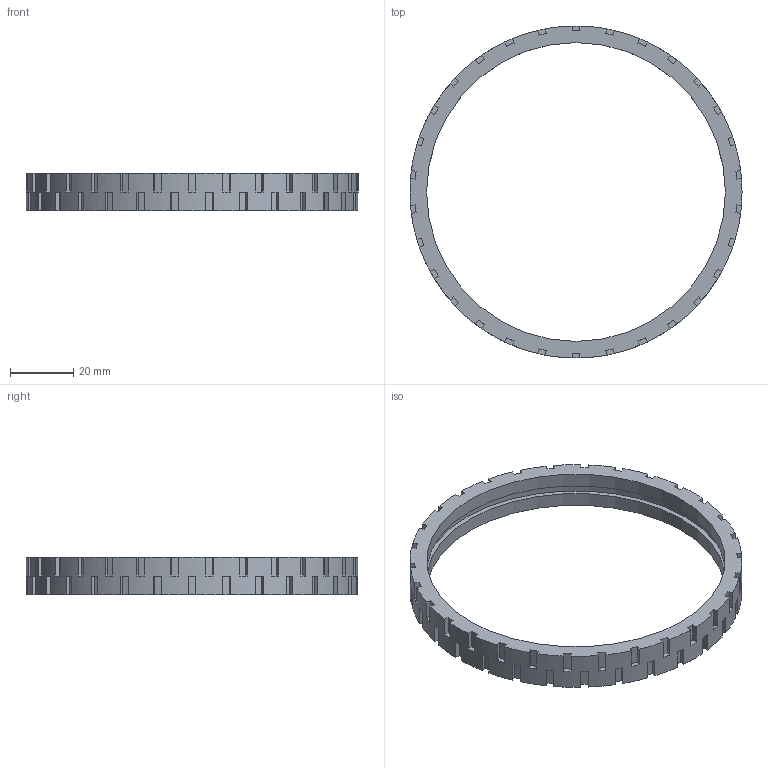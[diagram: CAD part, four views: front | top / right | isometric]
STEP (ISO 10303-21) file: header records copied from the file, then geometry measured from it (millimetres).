
FILE_DESCRIPTION(('Open CASCADE Model'),'2;1');
FILE_NAME('Open CASCADE Shape Model','2026-10-04T21:56:21',('Author'),( 'Open CASCADE'),'Open CASCADE STEP processor 7.9','Open CASCADE 7.9' ,'Unknown');
FILE_SCHEMA(('AUTOMOTIVE_DESIGN { 1 0 10303 214 1 1 1 1 }'));
Length unit declared in the file: millimetre
Products named in the file (1): Open CASCADE STEP translator 7.9 8
Bounding box: 105 x 105 x 12 mm (x, y, z)
Volume: 17039.9 mm3; surface area: 12813.7 mm2
Topology: 1 solids, 1 shells, 248 faces, 732 edges, 488 vertices
Faces by surface type: plane 244, cylinder 4
Full cylindrical faces by diameter (mm): 94.5 x2, 97.5 x1, 105 x1
Entity records: 17703 total; most frequent: CARTESIAN_POINT 3551, DIRECTION 2519, LINE 1700, VECTOR 1700, ORIENTED_EDGE 1464, PCURVE 1464, DEFINITIONAL_REPRESENTATION 1464, EDGE_CURVE 732
